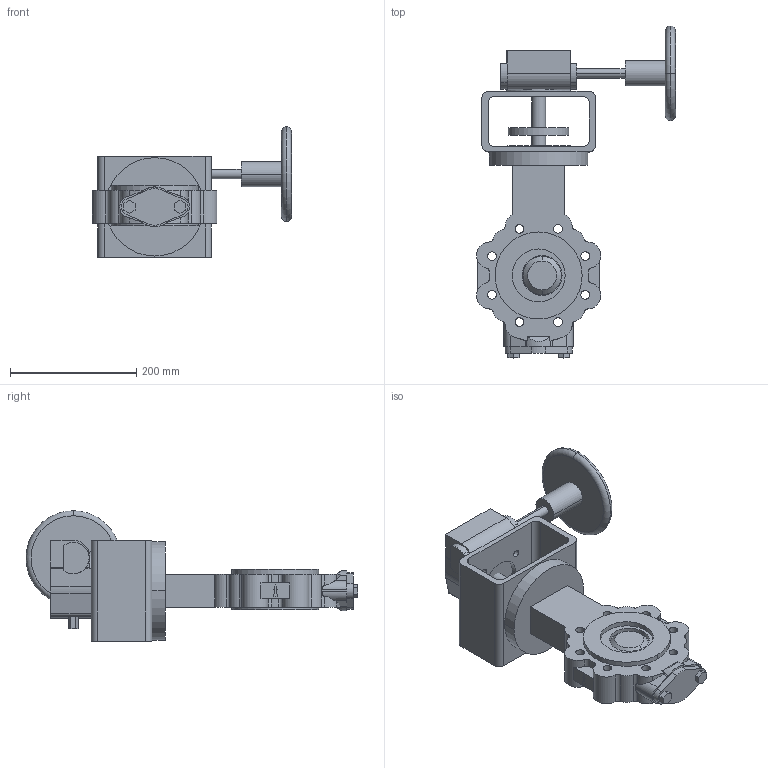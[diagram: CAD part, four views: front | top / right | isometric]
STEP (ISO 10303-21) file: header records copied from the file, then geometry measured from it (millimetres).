
FILE_DESCRIPTION( ( '' ), '1' );
FILE_NAME( 'F:/DE-SHS/TB/OR/04-Sonstiges/daten/Excel/mneugeba/018_ZETRIX-PN10_Getriebe-Rotork/c000006418.stp', '2016-09-19T06:18:39', ( '' ), ( '' ), ' ', ' ', ' ' );
FILE_SCHEMA( ( 'CONFIG_CONTROL_DESIGN' ) );
Length unit declared in the file: millimetre
Products named in the file (2): 1; 2
Bounding box: 315.6 x 526.4 x 207 mm (x, y, z)
Volume: 4314625.8 mm3; surface area: 467083.2 mm2
Topology: 2 solids, 2 shells, 299 faces, 813 edges, 543 vertices
Faces by surface type: cylinder 164, plane 127, cone 4, torus 4
Entity records: 10252 total; most frequent: CARTESIAN_POINT 2246, DIRECTION 1728, ORIENTED_EDGE 1626, EDGE_CURVE 813, AXIS2_PLACEMENT_3D 647, VERTEX_POINT 543, LINE 434, VECTOR 434
